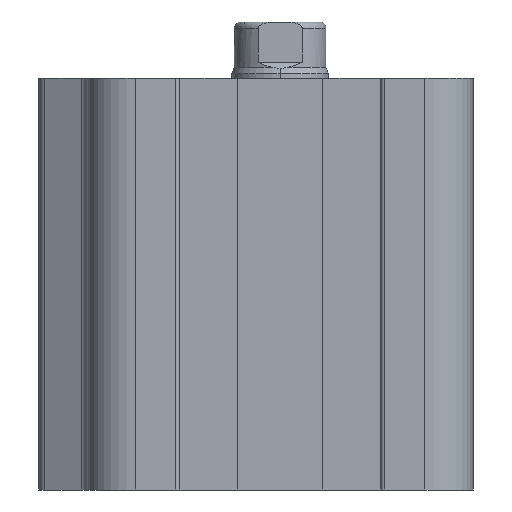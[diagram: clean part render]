
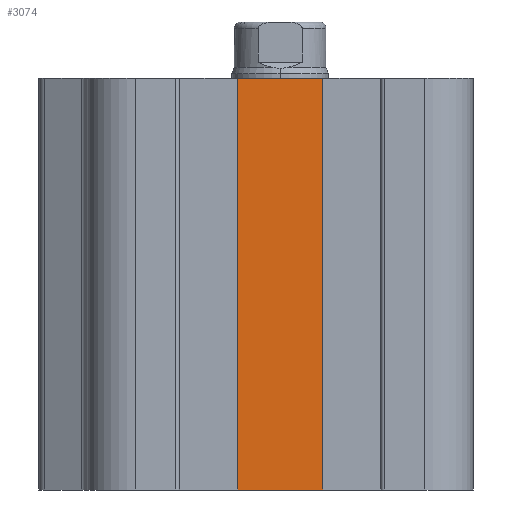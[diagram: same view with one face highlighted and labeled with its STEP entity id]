
A CAD part, left-side view. The second image highlights one B-rep face of the part: STEP entity #3074.
In plain terms, the highlighted planar face has unit normal (-1, 0, 0).
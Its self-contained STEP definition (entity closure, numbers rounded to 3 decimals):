
#490 = AXIS2_PLACEMENT_3D ( 'NONE', #7376, #5674, #6606 ) ;
#577 = ORIENTED_EDGE ( 'NONE', *, *, #11076, .F. ) ;
#639 = CARTESIAN_POINT ( 'NONE',  ( -19., -6.05, 51.2 ) ) ;
#1434 = CARTESIAN_POINT ( 'NONE',  ( -19., 6.05, 0. ) ) ;
#2134 = VECTOR ( 'NONE', #6603, 1000. ) ;
#2457 = LINE ( 'NONE', #6538, #11694 ) ;
#2514 = ORIENTED_EDGE ( 'NONE', *, *, #10494, .F. ) ;
#3074 = ADVANCED_FACE ( 'NONE', ( #3367 ), #10140, .F. ) ;
#3367 = FACE_OUTER_BOUND ( 'NONE', #11056, .T. ) ;
#3491 = LINE ( 'NONE', #8403, #2134 ) ;
#3868 = ORIENTED_EDGE ( 'NONE', *, *, #10707, .T. ) ;
#3988 = EDGE_CURVE ( 'NONE', #10276, #10092, #3491, .T. ) ;
#4125 = DIRECTION ( 'NONE',  ( 0., -1., 0. ) ) ;
#4697 = DIRECTION ( 'NONE',  ( 0., 0., -1. ) ) ;
#4883 = VECTOR ( 'NONE', #4125, 1000. ) ;
#5674 = DIRECTION ( 'NONE',  ( 1., 0., 0. ) ) ;
#6025 = CARTESIAN_POINT ( 'NONE',  ( -19., -6.05, 0. ) ) ;
#6247 = DIRECTION ( 'NONE',  ( 0., -1., 0. ) ) ;
#6538 = CARTESIAN_POINT ( 'NONE',  ( -19., -6.05, 51.2 ) ) ;
#6603 = DIRECTION ( 'NONE',  ( 0., 0., -1. ) ) ;
#6606 = DIRECTION ( 'NONE',  ( 0., 1., 0. ) ) ;
#6858 = CARTESIAN_POINT ( 'NONE',  ( -19., 6.05, 0. ) ) ;
#7231 = CARTESIAN_POINT ( 'NONE',  ( -19., 6.05, 51.2 ) ) ;
#7334 = LINE ( 'NONE', #6858, #4883 ) ;
#7376 = CARTESIAN_POINT ( 'NONE',  ( -19., 6.05, 51.2 ) ) ;
#7611 = VECTOR ( 'NONE', #6247, 1000. ) ;
#8312 = LINE ( 'NONE', #10911, #7611 ) ;
#8403 = CARTESIAN_POINT ( 'NONE',  ( -19., 6.05, 51.2 ) ) ;
#9129 = ORIENTED_EDGE ( 'NONE', *, *, #3988, .T. ) ;
#10092 = VERTEX_POINT ( 'NONE', #1434 ) ;
#10111 = VERTEX_POINT ( 'NONE', #6025 ) ;
#10140 = PLANE ( 'NONE',  #490 ) ;
#10276 = VERTEX_POINT ( 'NONE', #7231 ) ;
#10494 = EDGE_CURVE ( 'NONE', #11324, #10111, #2457, .T. ) ;
#10707 = EDGE_CURVE ( 'NONE', #10092, #10111, #7334, .T. ) ;
#10911 = CARTESIAN_POINT ( 'NONE',  ( -19., 6.05, 51.2 ) ) ;
#11056 = EDGE_LOOP ( 'NONE', ( #3868, #2514, #577, #9129 ) ) ;
#11076 = EDGE_CURVE ( 'NONE', #10276, #11324, #8312, .T. ) ;
#11324 = VERTEX_POINT ( 'NONE', #639 ) ;
#11694 = VECTOR ( 'NONE', #4697, 1000. ) ;
